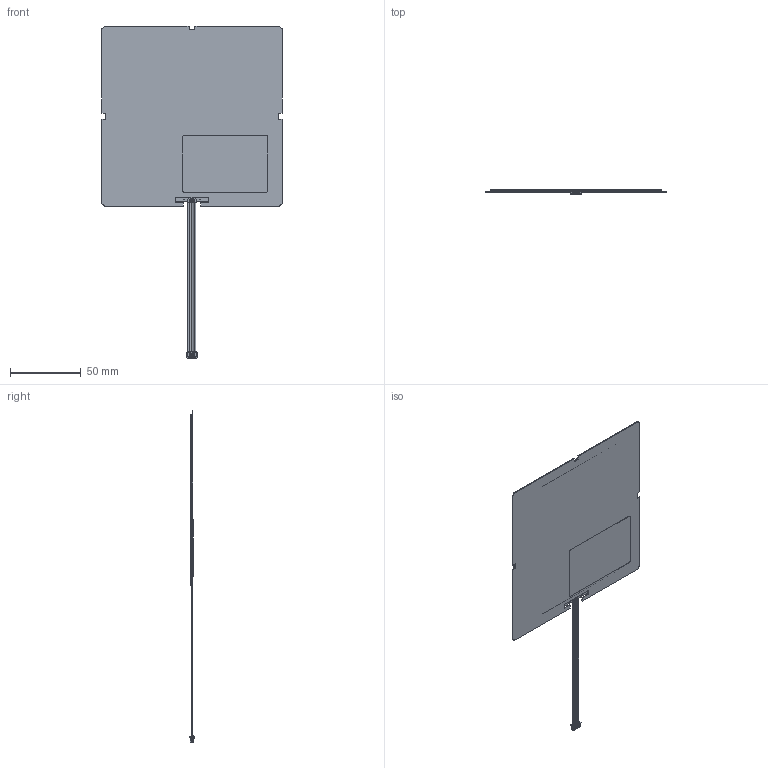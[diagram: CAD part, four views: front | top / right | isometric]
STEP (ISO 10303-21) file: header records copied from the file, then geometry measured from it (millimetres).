
FILE_DESCRIPTION (( 'STEP AP203' ), '1' );
FILE_NAME ('Brite-FL300-wm-A0.STEP', '2014-09-22T07:06:39', ( 'Philips' ), ( 'Philips' ), 'SwSTEP 2.0', 'SolidWorks 2013', '' );
FILE_SCHEMA (( 'CONFIG_CONTROL_DESIGN' ));
Products named in the file (1): Brite-FL300-wm-A0
Bounding box: 127 x 3.2 x 233.9 mm (x, y, z)
Volume: 28533 mm3; surface area: 120375.2 mm2
Topology: 15 solids, 15 shells, 1134 faces, 3198 edges, 2074 vertices
Faces by surface type: plane 755, bspline 199, cylinder 180
Entity records: 47457 total; most frequent: CARTESIAN_POINT 19839, ORIENTED_EDGE 6388, DIRECTION 4659, EDGE_CURVE 3194, LINE 2307, VECTOR 2307, VERTEX_POINT 2074, AXIS2_PLACEMENT_3D 1176
